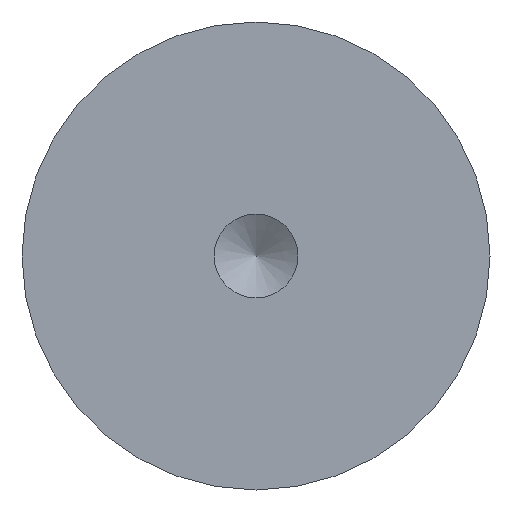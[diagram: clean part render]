
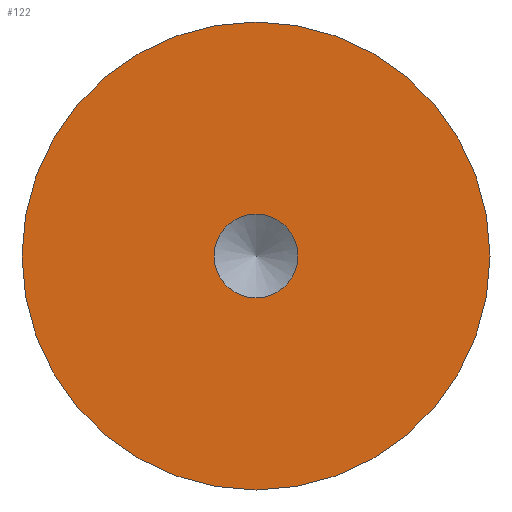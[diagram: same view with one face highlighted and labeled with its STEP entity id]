
A CAD part, front view. The second image highlights one B-rep face of the part: STEP entity #122.
In plain terms, the highlighted planar face has unit normal (0, -1, 0).
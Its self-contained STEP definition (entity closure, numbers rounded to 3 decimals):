
#122 = ADVANCED_FACE( '', ( #242, #243 ), #244, .F. );
#242 = FACE_BOUND( '', #391, .T. );
#243 = FACE_OUTER_BOUND( '', #392, .T. );
#244 = PLANE( '', #393 );
#391 = EDGE_LOOP( '', ( #769 ) );
#392 = EDGE_LOOP( '', ( #770 ) );
#393 = AXIS2_PLACEMENT_3D( '', #771, #772, #773 );
#769 = ORIENTED_EDGE( '', *, *, #1183, .F. );
#770 = ORIENTED_EDGE( '', *, *, #1184, .T. );
#771 = CARTESIAN_POINT( '', ( 16.75, 0., 0. ) );
#772 = DIRECTION( '', ( 0., 1., 0. ) );
#773 = DIRECTION( '', ( 0., 0., 1. ) );
#1183 = EDGE_CURVE( '', #1492, #1492, #1493, .T. );
#1184 = EDGE_CURVE( '', #1494, #1494, #1495, .T. );
#1492 = VERTEX_POINT( '', #2053 );
#1493 = CIRCLE( '', #2054, 3. );
#1494 = VERTEX_POINT( '', #2055 );
#1495 = CIRCLE( '', #2056, 16.75 );
#2053 = CARTESIAN_POINT( '', ( 0., 0., -3. ) );
#2054 = AXIS2_PLACEMENT_3D( '', #2318, #2319, #2320 );
#2055 = CARTESIAN_POINT( '', ( 0., 0., -16.75 ) );
#2056 = AXIS2_PLACEMENT_3D( '', #2321, #2322, #2323 );
#2318 = CARTESIAN_POINT( '', ( 0., 0., 0. ) );
#2319 = DIRECTION( '', ( 0., -1., 0. ) );
#2320 = DIRECTION( '', ( 0., 0., -1. ) );
#2321 = CARTESIAN_POINT( '', ( 0., 0., 0. ) );
#2322 = DIRECTION( '', ( 0., -1., 0. ) );
#2323 = DIRECTION( '', ( 0., 0., -1. ) );
